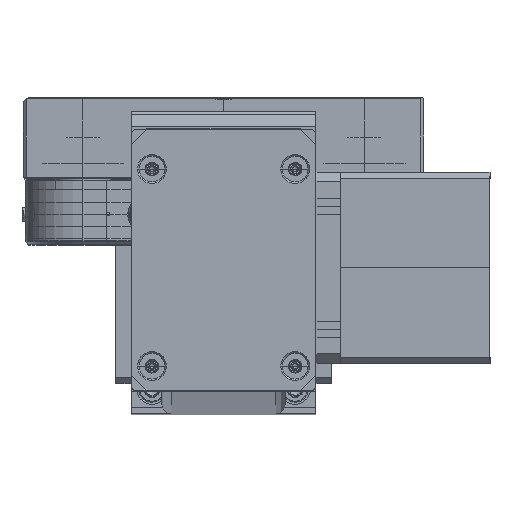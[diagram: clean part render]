
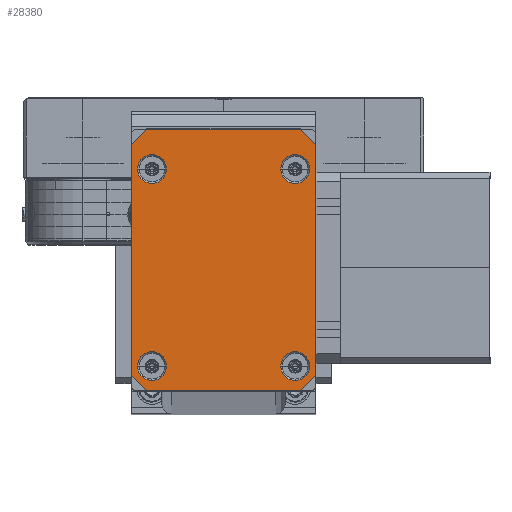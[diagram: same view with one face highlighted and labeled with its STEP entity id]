
A CAD part, top view. The second image highlights one B-rep face of the part: STEP entity #28380.
In plain terms, the highlighted planar face has unit normal (0, 0, 1).
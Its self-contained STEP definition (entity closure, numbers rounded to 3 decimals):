
#107 = EDGE_LOOP ( 'NONE', ( #13235, #22552, #15960, #11895, #12603, #23633, #18421, #19437 ) ) ;
#138 = EDGE_CURVE ( 'NONE', #3378, #17010, #18604, .T. ) ;
#393 = CARTESIAN_POINT ( 'NONE',  ( 11.45, 8., 5. ) ) ;
#475 = VECTOR ( 'NONE', #3874, 1000. ) ;
#519 = CIRCLE ( 'NONE', #21706, 4.7 ) ;
#1064 = CARTESIAN_POINT ( 'NONE',  ( 60., 80., 5. ) ) ;
#1189 = EDGE_LOOP ( 'NONE', ( #13280, #27054 ) ) ;
#1214 = CARTESIAN_POINT ( 'NONE',  ( 57.95, 8., 5. ) ) ;
#1622 = CARTESIAN_POINT ( 'NONE',  ( 48.55, 72., 5. ) ) ;
#1699 = CARTESIAN_POINT ( 'NONE',  ( 5., 0., 5. ) ) ;
#2476 = CIRCLE ( 'NONE', #18969, 4.7 ) ;
#2494 = LINE ( 'NONE', #6790, #22812 ) ;
#2503 = DIRECTION ( 'NONE',  ( 1., 0., 0. ) ) ;
#2603 = DIRECTION ( 'NONE',  ( 0., 0., 1. ) ) ;
#3040 = AXIS2_PLACEMENT_3D ( 'NONE', #28096, #19949, #19108 ) ;
#3103 = VECTOR ( 'NONE', #18463, 1000. ) ;
#3378 = VERTEX_POINT ( 'NONE', #20079 ) ;
#3508 = CARTESIAN_POINT ( 'NONE',  ( 2.05, 8., 5. ) ) ;
#3793 = AXIS2_PLACEMENT_3D ( 'NONE', #11314, #2603, #13377 ) ;
#3874 = DIRECTION ( 'NONE',  ( -0.707, -0.707, 0. ) ) ;
#4215 = DIRECTION ( 'NONE',  ( 1., 0., 0. ) ) ;
#4389 = CARTESIAN_POINT ( 'NONE',  ( 5., 85., 5. ) ) ;
#4418 = LINE ( 'NONE', #6774, #14537 ) ;
#4541 = VERTEX_POINT ( 'NONE', #18520 ) ;
#4711 = DIRECTION ( 'NONE',  ( 1., 0., 0. ) ) ;
#4896 = EDGE_LOOP ( 'NONE', ( #27620, #18724 ) ) ;
#5047 = CARTESIAN_POINT ( 'NONE',  ( 60., 0., 5. ) ) ;
#5066 = VECTOR ( 'NONE', #11351, 1000. ) ;
#5290 = EDGE_CURVE ( 'NONE', #26794, #21087, #4418, .T. ) ;
#5599 = ORIENTED_EDGE ( 'NONE', *, *, #28870, .F. ) ;
#5862 = CARTESIAN_POINT ( 'NONE',  ( 53.25, 72., 5. ) ) ;
#6540 = EDGE_CURVE ( 'NONE', #21087, #17323, #8161, .T. ) ;
#6570 = DIRECTION ( 'NONE',  ( 0., 0., 1. ) ) ;
#6615 = CARTESIAN_POINT ( 'NONE',  ( 5., 0., 5. ) ) ;
#6774 = CARTESIAN_POINT ( 'NONE',  ( 0., 85., 5. ) ) ;
#6790 = CARTESIAN_POINT ( 'NONE',  ( 0., 0., 5. ) ) ;
#6845 = CARTESIAN_POINT ( 'NONE',  ( 6.75, 72., 5. ) ) ;
#7066 = EDGE_CURVE ( 'NONE', #20886, #24030, #15108, .T. ) ;
#7495 = EDGE_CURVE ( 'NONE', #25341, #19188, #24115, .T. ) ;
#7547 = EDGE_CURVE ( 'NONE', #24030, #20886, #519, .T. ) ;
#7724 = CARTESIAN_POINT ( 'NONE',  ( 0., 80., 5. ) ) ;
#7835 = DIRECTION ( 'NONE',  ( 0., 0., -1. ) ) ;
#8161 = LINE ( 'NONE', #7724, #475 ) ;
#8708 = EDGE_LOOP ( 'NONE', ( #28889, #28503 ) ) ;
#8906 = VERTEX_POINT ( 'NONE', #24391 ) ;
#9281 = CARTESIAN_POINT ( 'NONE',  ( 2.05, 72., 5. ) ) ;
#9352 = VERTEX_POINT ( 'NONE', #10331 ) ;
#10137 = CARTESIAN_POINT ( 'NONE',  ( 53.25, 8., 5. ) ) ;
#10172 = FACE_BOUND ( 'NONE', #4896, .T. ) ;
#10331 = CARTESIAN_POINT ( 'NONE',  ( 11.45, 72., 5. ) ) ;
#10687 = DIRECTION ( 'NONE',  ( 0.707, -0.707, 0. ) ) ;
#11275 = DIRECTION ( 'NONE',  ( 1., 0., 0. ) ) ;
#11314 = CARTESIAN_POINT ( 'NONE',  ( 6.75, 8., 5. ) ) ;
#11351 = DIRECTION ( 'NONE',  ( 0., -1., 0. ) ) ;
#11439 = LINE ( 'NONE', #11586, #15590 ) ;
#11586 = CARTESIAN_POINT ( 'NONE',  ( 60., 5., 5. ) ) ;
#11678 = VERTEX_POINT ( 'NONE', #1214 ) ;
#11700 = VERTEX_POINT ( 'NONE', #1064 ) ;
#11720 = AXIS2_PLACEMENT_3D ( 'NONE', #14301, #7835, #25948 ) ;
#11895 = ORIENTED_EDGE ( 'NONE', *, *, #13741, .T. ) ;
#12552 = CARTESIAN_POINT ( 'NONE',  ( 0., 5., 5. ) ) ;
#12603 = ORIENTED_EDGE ( 'NONE', *, *, #20330, .T. ) ;
#12632 = DIRECTION ( 'NONE',  ( 1., 0., 0. ) ) ;
#12886 = EDGE_CURVE ( 'NONE', #9352, #22045, #23521, .T. ) ;
#13235 = ORIENTED_EDGE ( 'NONE', *, *, #21968, .T. ) ;
#13267 = CARTESIAN_POINT ( 'NONE',  ( 0., 80., 5. ) ) ;
#13280 = ORIENTED_EDGE ( 'NONE', *, *, #138, .F. ) ;
#13339 = CARTESIAN_POINT ( 'NONE',  ( 6.75, 8., 5. ) ) ;
#13377 = DIRECTION ( 'NONE',  ( 1., 0., 0. ) ) ;
#13606 = DIRECTION ( 'NONE',  ( 1., 0., 0. ) ) ;
#13702 = DIRECTION ( 'NONE',  ( 0., 0., 1. ) ) ;
#13741 = EDGE_CURVE ( 'NONE', #4541, #25765, #11439, .T. ) ;
#13904 = VECTOR ( 'NONE', #14604, 1000. ) ;
#14149 = FACE_BOUND ( 'NONE', #19544, .T. ) ;
#14301 = CARTESIAN_POINT ( 'NONE',  ( 0., 0., 5. ) ) ;
#14537 = VECTOR ( 'NONE', #17838, 1000. ) ;
#14604 = DIRECTION ( 'NONE',  ( -0.707, 0.707, 0. ) ) ;
#15108 = CIRCLE ( 'NONE', #3793, 4.7 ) ;
#15366 = CIRCLE ( 'NONE', #17257, 4.7 ) ;
#15590 = VECTOR ( 'NONE', #22506, 1000. ) ;
#15632 = EDGE_CURVE ( 'NONE', #22045, #9352, #2476, .T. ) ;
#15960 = ORIENTED_EDGE ( 'NONE', *, *, #18673, .T. ) ;
#15961 = CARTESIAN_POINT ( 'NONE',  ( 53.25, 8., 5. ) ) ;
#16377 = FACE_BOUND ( 'NONE', #8708, .T. ) ;
#16492 = DIRECTION ( 'NONE',  ( 1., 0., 0. ) ) ;
#16628 = CARTESIAN_POINT ( 'NONE',  ( 60., 5., 5. ) ) ;
#16780 = DIRECTION ( 'NONE',  ( 0., 0., 1. ) ) ;
#17010 = VERTEX_POINT ( 'NONE', #1622 ) ;
#17257 = AXIS2_PLACEMENT_3D ( 'NONE', #5862, #16780, #12632 ) ;
#17323 = VERTEX_POINT ( 'NONE', #13267 ) ;
#17838 = DIRECTION ( 'NONE',  ( -1., 0., 0. ) ) ;
#17864 = CARTESIAN_POINT ( 'NONE',  ( 6.75, 72., 5. ) ) ;
#17989 = LINE ( 'NONE', #20203, #5066 ) ;
#18192 = EDGE_CURVE ( 'NONE', #8906, #11678, #23253, .T. ) ;
#18421 = ORIENTED_EDGE ( 'NONE', *, *, #5290, .T. ) ;
#18424 = VECTOR ( 'NONE', #10687, 1000. ) ;
#18463 = DIRECTION ( 'NONE',  ( 0., 1., 0. ) ) ;
#18520 = CARTESIAN_POINT ( 'NONE',  ( 55., 0., 5. ) ) ;
#18604 = CIRCLE ( 'NONE', #3040, 4.7 ) ;
#18673 = EDGE_CURVE ( 'NONE', #19188, #4541, #2494, .T. ) ;
#18724 = ORIENTED_EDGE ( 'NONE', *, *, #15632, .F. ) ;
#18969 = AXIS2_PLACEMENT_3D ( 'NONE', #6845, #27326, #13606 ) ;
#19108 = DIRECTION ( 'NONE',  ( 1., 0., 0. ) ) ;
#19188 = VERTEX_POINT ( 'NONE', #6615 ) ;
#19304 = AXIS2_PLACEMENT_3D ( 'NONE', #17864, #13702, #2503 ) ;
#19437 = ORIENTED_EDGE ( 'NONE', *, *, #6540, .T. ) ;
#19544 = EDGE_LOOP ( 'NONE', ( #5599, #26206 ) ) ;
#19949 = DIRECTION ( 'NONE',  ( 0., 0., 1. ) ) ;
#20079 = CARTESIAN_POINT ( 'NONE',  ( 57.95, 72., 5. ) ) ;
#20203 = CARTESIAN_POINT ( 'NONE',  ( 0., 0., 5. ) ) ;
#20330 = EDGE_CURVE ( 'NONE', #25765, #11700, #27455, .T. ) ;
#20886 = VERTEX_POINT ( 'NONE', #3508 ) ;
#21087 = VERTEX_POINT ( 'NONE', #4389 ) ;
#21254 = LINE ( 'NONE', #25957, #13904 ) ;
#21706 = AXIS2_PLACEMENT_3D ( 'NONE', #13339, #6570, #11275 ) ;
#21968 = EDGE_CURVE ( 'NONE', #17323, #25341, #17989, .T. ) ;
#22045 = VERTEX_POINT ( 'NONE', #9281 ) ;
#22506 = DIRECTION ( 'NONE',  ( 0.707, 0.707, 0. ) ) ;
#22552 = ORIENTED_EDGE ( 'NONE', *, *, #7495, .T. ) ;
#22812 = VECTOR ( 'NONE', #4711, 1000. ) ;
#23253 = CIRCLE ( 'NONE', #25606, 4.7 ) ;
#23521 = CIRCLE ( 'NONE', #19304, 4.7 ) ;
#23633 = ORIENTED_EDGE ( 'NONE', *, *, #23772, .T. ) ;
#23772 = EDGE_CURVE ( 'NONE', #11700, #26794, #21254, .T. ) ;
#23976 = CIRCLE ( 'NONE', #27281, 4.7 ) ;
#24030 = VERTEX_POINT ( 'NONE', #393 ) ;
#24115 = LINE ( 'NONE', #1699, #18424 ) ;
#24391 = CARTESIAN_POINT ( 'NONE',  ( 48.55, 8., 5. ) ) ;
#24413 = DIRECTION ( 'NONE',  ( 0., 0., 1. ) ) ;
#25341 = VERTEX_POINT ( 'NONE', #12552 ) ;
#25514 = PLANE ( 'NONE',  #11720 ) ;
#25606 = AXIS2_PLACEMENT_3D ( 'NONE', #15961, #24413, #4215 ) ;
#25753 = EDGE_CURVE ( 'NONE', #17010, #3378, #15366, .T. ) ;
#25765 = VERTEX_POINT ( 'NONE', #16628 ) ;
#25948 = DIRECTION ( 'NONE',  ( -1., 0., 0. ) ) ;
#25957 = CARTESIAN_POINT ( 'NONE',  ( 55., 85., 5. ) ) ;
#26206 = ORIENTED_EDGE ( 'NONE', *, *, #18192, .F. ) ;
#26794 = VERTEX_POINT ( 'NONE', #28775 ) ;
#27054 = ORIENTED_EDGE ( 'NONE', *, *, #25753, .F. ) ;
#27281 = AXIS2_PLACEMENT_3D ( 'NONE', #10137, #27835, #16492 ) ;
#27326 = DIRECTION ( 'NONE',  ( 0., 0., 1. ) ) ;
#27455 = LINE ( 'NONE', #5047, #3103 ) ;
#27620 = ORIENTED_EDGE ( 'NONE', *, *, #12886, .F. ) ;
#27835 = DIRECTION ( 'NONE',  ( 0., 0., 1. ) ) ;
#28019 = FACE_OUTER_BOUND ( 'NONE', #107, .T. ) ;
#28096 = CARTESIAN_POINT ( 'NONE',  ( 53.25, 72., 5. ) ) ;
#28165 = FACE_BOUND ( 'NONE', #1189, .T. ) ;
#28380 = ADVANCED_FACE ( 'NONE', ( #10172, #28165, #16377, #14149, #28019 ), #25514, .F. ) ;
#28503 = ORIENTED_EDGE ( 'NONE', *, *, #7066, .F. ) ;
#28775 = CARTESIAN_POINT ( 'NONE',  ( 55., 85., 5. ) ) ;
#28870 = EDGE_CURVE ( 'NONE', #11678, #8906, #23976, .T. ) ;
#28889 = ORIENTED_EDGE ( 'NONE', *, *, #7547, .F. ) ;
